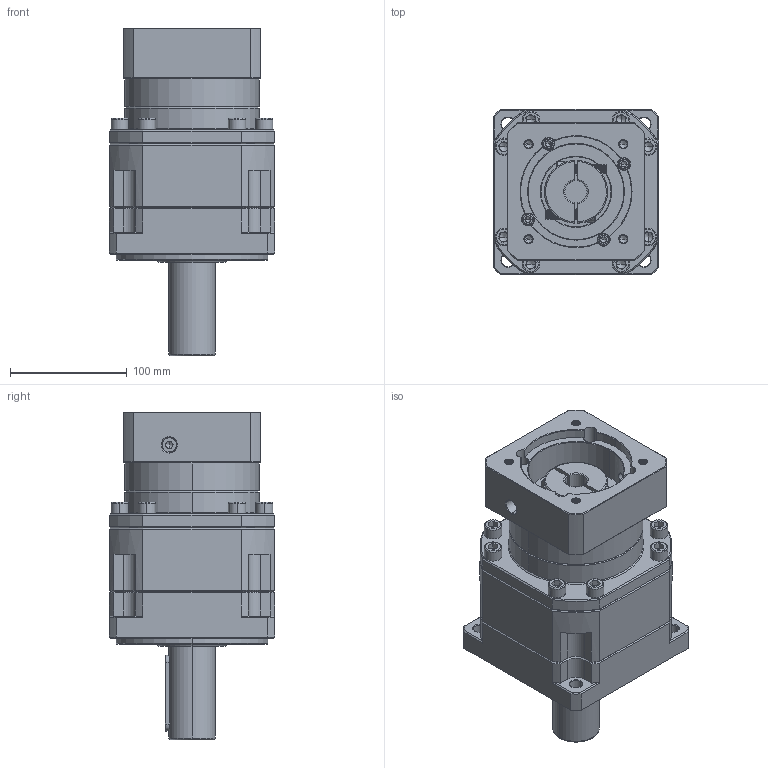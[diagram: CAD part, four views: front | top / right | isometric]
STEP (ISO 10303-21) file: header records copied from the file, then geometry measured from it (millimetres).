
FILE_DESCRIPTION (( 'STEP AP214' ), '1' );
FILE_NAME ('ZB142A-D40-L2-19-95-115-M8.step', '2023-03-18T07:04:05', ( '' ), ( '' ), 'SwSTEP 2.0', 'SolidWorks 2016', '' );
FILE_SCHEMA (( 'AUTOMOTIVE_DESIGN' ));
Length unit declared in the file: millimetre
Products named in the file (1): ZB142A-D40-L2-19-95-115-M8
Bounding box: 142 x 142 x 280.7 mm (x, y, z)
Volume: 2961163 mm3; surface area: 238945.3 mm2
Topology: 6 solids, 6 shells, 2288 faces, 5926 edges, 3755 vertices
Faces by surface type: plane 1025, cylinder 497, cone 401, bspline 327, torus 38
Entity records: 120807 total; most frequent: CARTESIAN_POINT 42443, ORIENTED_EDGE 11744, DIRECTION 9961, EDGE_CURVE 5872, VERTEX_POINT 3755, LINE 3599, VECTOR 3599, AXIS2_PLACEMENT_3D 3181
